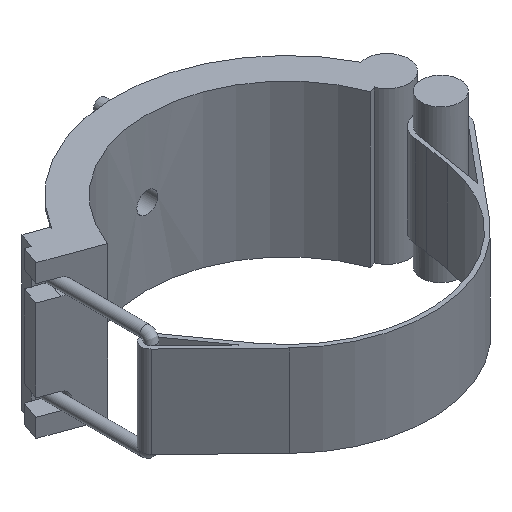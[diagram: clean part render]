
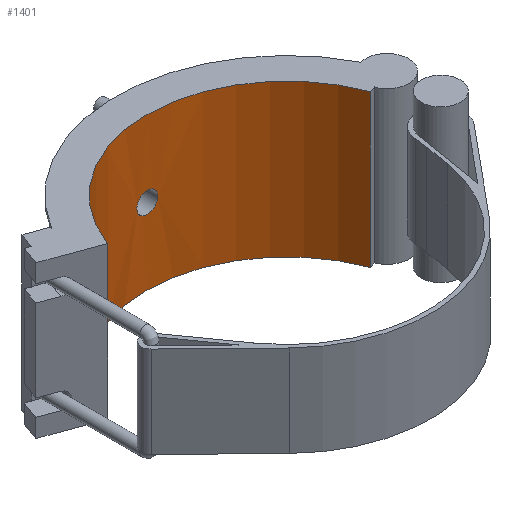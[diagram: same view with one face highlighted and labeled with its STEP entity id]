
A CAD part, isometric view. The second image highlights one B-rep face of the part: STEP entity #1401.
In plain terms, the highlighted cylindrical face has radius 161.7 mm (diameter 323.4 mm), a partial arc.
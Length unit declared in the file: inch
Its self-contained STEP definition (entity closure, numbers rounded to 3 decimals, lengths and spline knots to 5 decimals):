
#31=B_SPLINE_CURVE_WITH_KNOTS('',3,(#2496,#2497,#2498,#2499,#2500,#2501,
#2502,#2503,#2504,#2505,#2506,#2507,#2508,#2509,#2510,#2511,#2512,#2513,
#2514,#2515,#2516,#2517,#2518,#2519,#2520,#2521,#2522,#2523,#2524,#2525,
#2526,#2527,#2528,#2529),.UNSPECIFIED.,.T.,.F.,(4,2,2,2,2,2,2,2,2,2,2,2,
2,2,2,2,4),(0.,0.45659,0.91319,1.36978,1.82637,
2.28296,2.73955,3.19615,3.65274,4.10933,
4.56592,5.02252,5.47911,5.9357,6.39229,
6.84888,7.30548),.UNSPECIFIED.);
#56=CYLINDRICAL_SURFACE('',#1553,6.36614);
#81=FACE_BOUND('',#305,.T.);
#127=CIRCLE('',#1519,6.36614);
#138=CIRCLE('',#1551,6.36614);
#213=FACE_OUTER_BOUND('',#304,.T.);
#304=EDGE_LOOP('',(#1213,#1214,#1215,#1216));
#305=EDGE_LOOP('',(#1217));
#362=LINE('',#2150,#476);
#436=LINE('',#2493,#550);
#476=VECTOR('',#1694,0.3937);
#550=VECTOR('',#1912,0.3937);
#613=VERTEX_POINT('',#2147);
#614=VERTEX_POINT('',#2149);
#655=VERTEX_POINT('',#2282);
#671=VERTEX_POINT('',#2489);
#672=VERTEX_POINT('',#2495);
#751=EDGE_CURVE('',#614,#613,#362,.T.);
#820=EDGE_CURVE('',#614,#655,#127,.T.);
#857=EDGE_CURVE('',#671,#613,#138,.T.);
#858=EDGE_CURVE('',#671,#655,#436,.T.);
#859=EDGE_CURVE('',#672,#672,#31,.T.);
#1213=ORIENTED_EDGE('',*,*,#858,.T.);
#1214=ORIENTED_EDGE('',*,*,#820,.F.);
#1215=ORIENTED_EDGE('',*,*,#751,.T.);
#1216=ORIENTED_EDGE('',*,*,#857,.F.);
#1217=ORIENTED_EDGE('',*,*,#859,.T.);
#1401=ADVANCED_FACE('',(#213,#81),#56,.F.);
#1519=AXIS2_PLACEMENT_3D('',#2283,#1824,#1825);
#1551=AXIS2_PLACEMENT_3D('',#2491,#1908,#1909);
#1553=AXIS2_PLACEMENT_3D('',#2494,#1913,#1914);
#1694=DIRECTION('',(0.,0.,-1.));
#1824=DIRECTION('center_axis',(0.,0.,-1.));
#1825=DIRECTION('ref_axis',(-1.,0.,0.));
#1908=DIRECTION('center_axis',(0.,0.,1.));
#1909=DIRECTION('ref_axis',(-1.,0.,0.));
#1912=DIRECTION('',(0.,0.,1.));
#1913=DIRECTION('center_axis',(0.,0.,1.));
#1914=DIRECTION('ref_axis',(-1.,0.,0.));
#2147=CARTESIAN_POINT('',(-5.98222,2.17735,-3.465));
#2149=CARTESIAN_POINT('',(-5.98222,2.17735,3.465));
#2150=CARTESIAN_POINT('',(-5.98222,2.17735,0.));
#2282=CARTESIAN_POINT('',(5.98222,2.17735,3.465));
#2283=CARTESIAN_POINT('Origin',(0.,0.,3.465));
#2489=CARTESIAN_POINT('',(5.98222,2.17735,-3.465));
#2491=CARTESIAN_POINT('Origin',(0.,0.,-3.465));
#2493=CARTESIAN_POINT('',(5.98222,2.17735,0.));
#2494=CARTESIAN_POINT('Origin',(0.,0.,0.));
#2495=CARTESIAN_POINT('',(0.47702,6.34824,0.));
#2496=CARTESIAN_POINT('Ctrl Pts',(0.47702,6.34824,0.));
#2497=CARTESIAN_POINT('Ctrl Pts',(0.47702,6.34824,-0.05992));
#2498=CARTESIAN_POINT('Ctrl Pts',(0.46504,6.34918,-0.12382));
#2499=CARTESIAN_POINT('Ctrl Pts',(0.41635,6.35256,-0.24134));
#2500=CARTESIAN_POINT('Ctrl Pts',(0.37965,6.35495,-0.29497));
#2501=CARTESIAN_POINT('Ctrl Pts',(0.29497,6.35945,-0.37965));
#2502=CARTESIAN_POINT('Ctrl Pts',(0.24134,6.36184,-0.41635));
#2503=CARTESIAN_POINT('Ctrl Pts',(0.12382,6.36521,-0.46504));
#2504=CARTESIAN_POINT('Ctrl Pts',(0.05992,6.36614,-0.47702));
#2505=CARTESIAN_POINT('Ctrl Pts',(-0.05992,6.36614,-0.47702));
#2506=CARTESIAN_POINT('Ctrl Pts',(-0.12382,6.36521,-0.46504));
#2507=CARTESIAN_POINT('Ctrl Pts',(-0.24134,6.36184,-0.41635));
#2508=CARTESIAN_POINT('Ctrl Pts',(-0.29497,6.35945,-0.37965));
#2509=CARTESIAN_POINT('Ctrl Pts',(-0.37965,6.35495,-0.29497));
#2510=CARTESIAN_POINT('Ctrl Pts',(-0.41635,6.35256,-0.24134));
#2511=CARTESIAN_POINT('Ctrl Pts',(-0.46504,6.34918,-0.12382));
#2512=CARTESIAN_POINT('Ctrl Pts',(-0.47702,6.34824,-0.05992));
#2513=CARTESIAN_POINT('Ctrl Pts',(-0.47702,6.34824,0.05992));
#2514=CARTESIAN_POINT('Ctrl Pts',(-0.46504,6.34918,0.12382));
#2515=CARTESIAN_POINT('Ctrl Pts',(-0.41635,6.35256,0.24134));
#2516=CARTESIAN_POINT('Ctrl Pts',(-0.37965,6.35495,0.29497));
#2517=CARTESIAN_POINT('Ctrl Pts',(-0.29497,6.35945,0.37965));
#2518=CARTESIAN_POINT('Ctrl Pts',(-0.24134,6.36184,0.41635));
#2519=CARTESIAN_POINT('Ctrl Pts',(-0.12382,6.36521,0.46504));
#2520=CARTESIAN_POINT('Ctrl Pts',(-0.05992,6.36614,0.47702));
#2521=CARTESIAN_POINT('Ctrl Pts',(0.05992,6.36614,0.47702));
#2522=CARTESIAN_POINT('Ctrl Pts',(0.12382,6.36521,0.46504));
#2523=CARTESIAN_POINT('Ctrl Pts',(0.24134,6.36184,0.41635));
#2524=CARTESIAN_POINT('Ctrl Pts',(0.29497,6.35945,0.37965));
#2525=CARTESIAN_POINT('Ctrl Pts',(0.37965,6.35495,0.29497));
#2526=CARTESIAN_POINT('Ctrl Pts',(0.41635,6.35256,0.24134));
#2527=CARTESIAN_POINT('Ctrl Pts',(0.46504,6.34918,0.12382));
#2528=CARTESIAN_POINT('Ctrl Pts',(0.47702,6.34824,0.05992));
#2529=CARTESIAN_POINT('Ctrl Pts',(0.47702,6.34824,0.));
